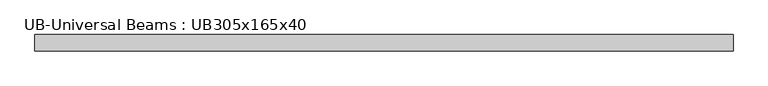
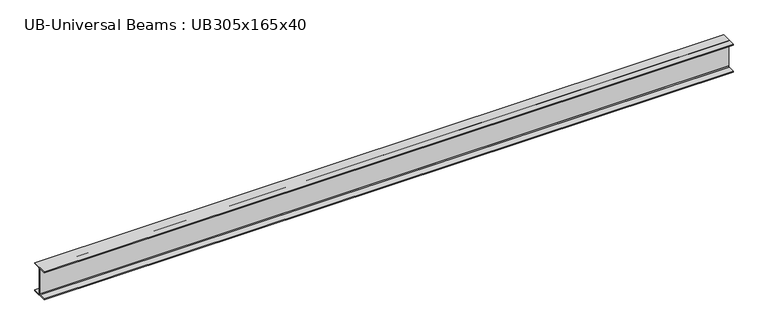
"""IFC4 building model written with IfcOpenShell, lengths in millimetres: beam geometry, UB-Universal Beams : UB305x165x40."""

from ifc_helpers import new_model, si_unit, point, frame, frame_2d, origin, place, context, project, spatial, polyline, circle_curve, trimmed, segment, composite_curve, outline, extrude, source, transform, mapped, element, save


def ub_universal_beams_ub305x165x40_5941ca45(model_context):
    return source(origin(), model_context, "Body", "SweptSolid", [
        extrude(outline(composite_curve([segment(polyline([(82.5, -141.5), (82.5, -151.7), (-82.5, -151.7), (-82.5, -141.5), (-11.9, -141.5)]), True, "CONTINUOUS"), segment(trimmed(circle_curve(frame_2d((-11.9, -132.6)), 8.9), [point((-11.9, -141.5))], [point((-3.0, -132.6))], True, "CARTESIAN"), True, "CONTINUOUS"), segment(polyline([(-3.0, -132.6), (-3.0, 132.6)]), True, "CONTINUOUS"), segment(trimmed(circle_curve(frame_2d((-11.9, 132.6)), 8.9), [point((-3.0, 132.6))], [point((-11.9, 141.5))], True, "CARTESIAN"), True, "CONTINUOUS"), segment(polyline([(-11.9, 141.5), (-82.5, 141.5), (-82.5, 151.7), (82.5, 151.7), (82.5, 141.5), (11.9, 141.5)]), True, "CONTINUOUS"), segment(trimmed(circle_curve(frame_2d((11.9, 132.6)), 8.9), [point((11.9, 141.5))], [point((3.0, 132.6))], True, "CARTESIAN"), True, "CONTINUOUS"), segment(polyline([(3.0, 132.6), (3.0, -132.6)]), True, "CONTINUOUS"), segment(trimmed(circle_curve(frame_2d((11.9, -132.6)), 8.9), [point((3.0, -132.6))], [point((11.9, -141.5))], True, "CARTESIAN"), True, "CONTINUOUS"), segment(polyline([(11.9, -141.5), (82.5, -141.5)]), True, "CONTINUOUS")], self_intersect=False)), frame((-3471.85, 0.0, 0.0), z_axis=(1.0, 0.0, 0.0), x_axis=(0.0, 1.0, 0.0)), (0.0, 0.0, 1.0), 7065.0),
    ])


if __name__ == "__main__":
    model = new_model("IFC4")
    model_context = context("Model", 3, world=origin())
    ifc_project = project(units=[si_unit("LENGTHUNIT", "METRE", prefix="MILLI")], contexts=[model_context])
    site = spatial("IfcSite", under=ifc_project)
    building = spatial("IfcBuilding", under=site)
    placement = place(None, origin())
    ub_universal_beams_ub305x165x40_shape = ub_universal_beams_ub305x165x40_5941ca45(model_context)
    element("IfcBeam", 1, ObjectType="UB-Universal Beams : UB305x165x40", at=placement, inside=building, context=model_context, shape_type="MappedRepresentation", body=[
        mapped(ub_universal_beams_ub305x165x40_shape, transform((0.0, 0.0, 0.0), x_axis=(1.0, 0.0, 0.0), y_axis=(0.0, 1.0, 0.0), z_axis=(0.0, 0.0, 1.0))),
    ])
    save(model, "model.ifc")
